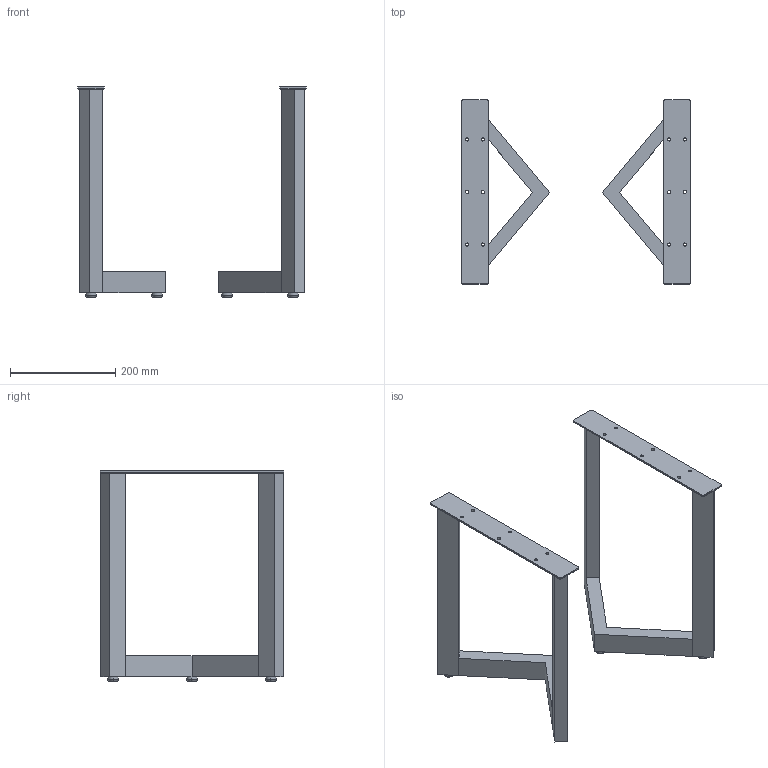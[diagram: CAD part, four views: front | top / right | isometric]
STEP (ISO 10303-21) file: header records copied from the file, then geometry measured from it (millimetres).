
FILE_DESCRIPTION(/* description */ (''),/* implementation_level */ '2;1');
FILE_NAME(/* name */ 'kinoshita_coccole_cl31',/* time_stamp */ '2024-07-09T16:23:11+09:00',/* author */ (''),/* organization */ (''),/* preprocessor_version */ 'ST-DEVELOPER v16.5',/* originating_system */ '',/* authorisation */ '');
FILE_SCHEMA (('AUTOMOTIVE_DESIGN'));
Length unit declared in the file: millimetre
Products named in the file (1): Document
Bounding box: 434.37 x 350 x 400 mm (x, y, z)
Volume: 2422433.3 mm3; surface area: 367559.4 mm2
Topology: 2 solids, 2 shells, 126 faces, 300 edges, 180 vertices
Faces by surface type: bspline 72, plane 54
Entity records: 3752 total; most frequent: CARTESIAN_POINT 1908, ORIENTED_EDGE 600, EDGE_CURVE 300, VERTEX_POINT 180, EDGE_LOOP 156, B_SPLINE_CURVE_WITH_KNOTS 136, ADVANCED_FACE 126, FACE_OUTER_BOUND 126
